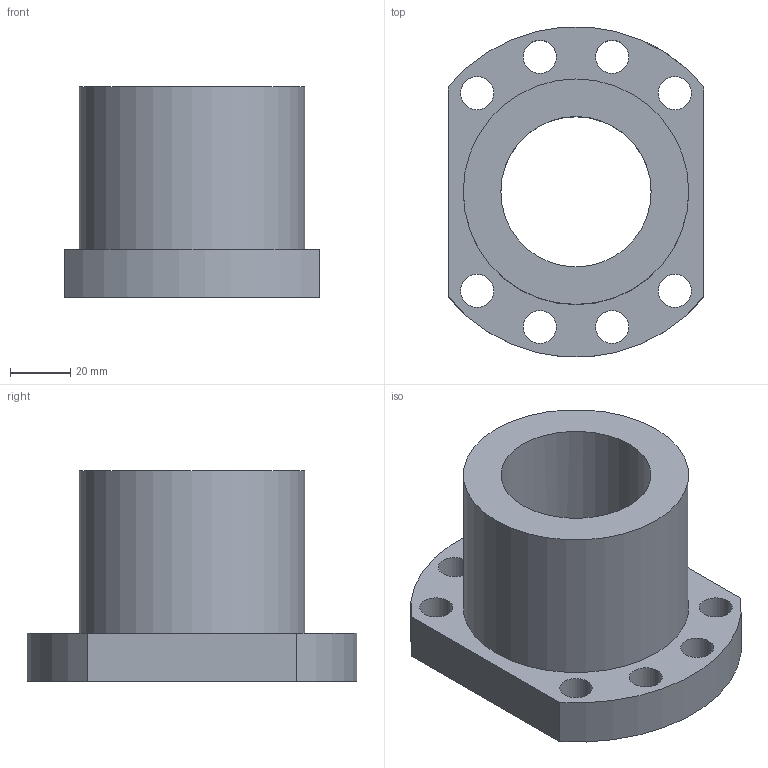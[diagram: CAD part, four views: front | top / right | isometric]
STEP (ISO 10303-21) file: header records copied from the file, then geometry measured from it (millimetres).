
FILE_DESCRIPTION(/* description */ (''),/* implementation_level */ '2;1');
FILE_NAME(/* name */ '50-5T6',/* time_stamp */ '2007-05-17T17:55:37+08:00',/* author */ (''),/* organization */ (''),/* preprocessor_version */ 'ST-DEVELOPER v9',/* originating_system */ 'UGS - NX 4.0',/* authorisation */ '');
FILE_SCHEMA (('CONFIG_CONTROL_DESIGN'));
Length unit declared in the file: millimetre
Products named in the file (1): 50-5T6
Bounding box: 85 x 109.65 x 70 mm (x, y, z)
Volume: 220940.7 mm3; surface area: 45204.8 mm2
Topology: 1 solids, 1 shells, 20 faces, 48 edges, 32 vertices
Faces by surface type: cylinder 14, plane 6
Full cylindrical faces by diameter (mm): 6 x1, 8 x1, 11 x8, 50 x1, 75 x1
Entity records: 774 total; most frequent: CARTESIAN_POINT 203, DIRECTION 102, ORIENTED_EDGE 72, EDGE_LOOP 54, AXIS2_PLACEMENT_3D 47, FACE_BOUND 46, EDGE_CURVE 36, VERTEX_POINT 32
